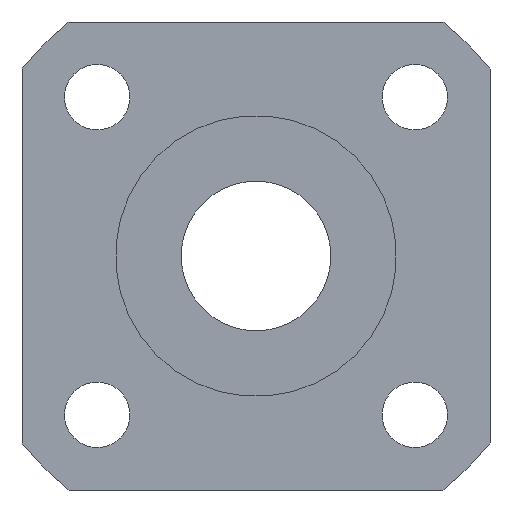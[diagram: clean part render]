
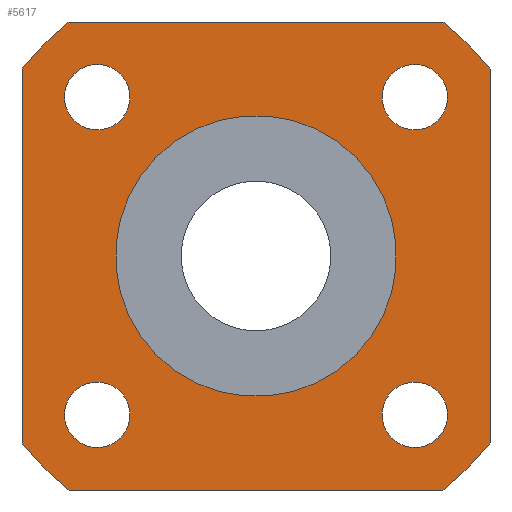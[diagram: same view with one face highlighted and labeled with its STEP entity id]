
A CAD part, left-side view. The second image highlights one B-rep face of the part: STEP entity #5617.
In plain terms, the highlighted planar face has unit normal (-1, 0, 0).
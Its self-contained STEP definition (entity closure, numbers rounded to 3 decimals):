
#112=CIRCLE('',#5960,16.);
#113=CIRCLE('',#5962,16.);
#114=CIRCLE('',#5964,16.);
#124=CIRCLE('',#5979,7.5);
#126=CIRCLE('',#5984,16.);
#127=CIRCLE('',#5986,1.75);
#128=CIRCLE('',#5987,1.75);
#129=CIRCLE('',#5988,1.75);
#130=CIRCLE('',#5989,1.75);
#330=LINE('',#8953,#980);
#331=LINE('',#8954,#981);
#332=LINE('',#8955,#982);
#333=LINE('',#8956,#983);
#980=VECTOR('',#6520,1000.);
#981=VECTOR('',#6521,1000.);
#982=VECTOR('',#6522,1000.);
#983=VECTOR('',#6523,1000.);
#1716=ORIENTED_EDGE('',*,*,#3333,.T.);
#1717=ORIENTED_EDGE('',*,*,#3313,.F.);
#1718=ORIENTED_EDGE('',*,*,#3334,.T.);
#1719=ORIENTED_EDGE('',*,*,#3316,.F.);
#1720=ORIENTED_EDGE('',*,*,#3335,.T.);
#1721=ORIENTED_EDGE('',*,*,#3330,.F.);
#1722=ORIENTED_EDGE('',*,*,#3336,.T.);
#1723=ORIENTED_EDGE('',*,*,#3311,.F.);
#1724=ORIENTED_EDGE('',*,*,#3337,.T.);
#1725=ORIENTED_EDGE('',*,*,#3338,.T.);
#1726=ORIENTED_EDGE('',*,*,#3339,.T.);
#1727=ORIENTED_EDGE('',*,*,#3340,.T.);
#1728=ORIENTED_EDGE('',*,*,#3328,.F.);
#3311=EDGE_CURVE('',#4122,#4123,#112,.T.);
#3313=EDGE_CURVE('',#4124,#4125,#113,.T.);
#3316=EDGE_CURVE('',#4126,#4127,#114,.T.);
#3328=EDGE_CURVE('',#4137,#4137,#124,.F.);
#3330=EDGE_CURVE('',#4139,#4140,#126,.T.);
#3333=EDGE_CURVE('',#4122,#4125,#330,.T.);
#3334=EDGE_CURVE('',#4124,#4127,#331,.T.);
#3335=EDGE_CURVE('',#4126,#4140,#332,.T.);
#3336=EDGE_CURVE('',#4139,#4123,#333,.T.);
#3337=EDGE_CURVE('',#4141,#4141,#127,.T.);
#3338=EDGE_CURVE('',#4142,#4142,#128,.T.);
#3339=EDGE_CURVE('',#4143,#4143,#129,.T.);
#3340=EDGE_CURVE('',#4144,#4144,#130,.T.);
#4122=VERTEX_POINT('',#8901);
#4123=VERTEX_POINT('',#8903);
#4124=VERTEX_POINT('',#8907);
#4125=VERTEX_POINT('',#8908);
#4126=VERTEX_POINT('',#8913);
#4127=VERTEX_POINT('',#8914);
#4137=VERTEX_POINT('',#8941);
#4139=VERTEX_POINT('',#8948);
#4140=VERTEX_POINT('',#8949);
#4141=VERTEX_POINT('',#8958);
#4142=VERTEX_POINT('',#8960);
#4143=VERTEX_POINT('',#8962);
#4144=VERTEX_POINT('',#8964);
#4610=EDGE_LOOP('',(#1716,#1717,#1718,#1719,#1720,#1721,#1722,#1723));
#4611=EDGE_LOOP('',(#1724));
#4612=EDGE_LOOP('',(#1725));
#4613=EDGE_LOOP('',(#1726));
#4614=EDGE_LOOP('',(#1727));
#4615=EDGE_LOOP('',(#1728));
#5014=FACE_BOUND('',#4610,.T.);
#5015=FACE_BOUND('',#4611,.T.);
#5016=FACE_BOUND('',#4612,.T.);
#5017=FACE_BOUND('',#4613,.T.);
#5018=FACE_BOUND('',#4614,.T.);
#5019=FACE_BOUND('',#4615,.T.);
#5363=PLANE('',#5985);
#5617=ADVANCED_FACE('',(#5014,#5015,#5016,#5017,#5018,#5019),#5363,.F.);
#5960=AXIS2_PLACEMENT_3D('',#8902,#6461,#6462);
#5962=AXIS2_PLACEMENT_3D('',#8906,#6466,#6467);
#5964=AXIS2_PLACEMENT_3D('',#8912,#6472,#6473);
#5979=AXIS2_PLACEMENT_3D('',#8940,#6504,#6505);
#5984=AXIS2_PLACEMENT_3D('',#8947,#6514,#6515);
#5985=AXIS2_PLACEMENT_3D('',#8952,#6518,#6519);
#5986=AXIS2_PLACEMENT_3D('',#8957,#6524,#6525);
#5987=AXIS2_PLACEMENT_3D('',#8959,#6526,#6527);
#5988=AXIS2_PLACEMENT_3D('',#8961,#6528,#6529);
#5989=AXIS2_PLACEMENT_3D('',#8963,#6530,#6531);
#6461=DIRECTION('',(1.,0.,0.));
#6462=DIRECTION('',(0.,0.707,-0.707));
#6466=DIRECTION('',(1.,0.,0.));
#6467=DIRECTION('',(0.,0.707,-0.707));
#6472=DIRECTION('',(1.,0.,0.));
#6473=DIRECTION('',(0.,0.707,-0.707));
#6504=DIRECTION('',(1.,0.,0.));
#6505=DIRECTION('',(0.,0.707,-0.707));
#6514=DIRECTION('',(1.,0.,0.));
#6515=DIRECTION('',(0.,0.707,-0.707));
#6518=DIRECTION('',(1.,0.,0.));
#6519=DIRECTION('',(0.,0.707,-0.707));
#6520=DIRECTION('',(0.,0.,1.));
#6521=DIRECTION('',(0.,1.,0.));
#6522=DIRECTION('',(0.,0.,-1.));
#6523=DIRECTION('',(0.,-1.,0.));
#6524=DIRECTION('',(1.,0.,0.));
#6525=DIRECTION('',(0.,0.707,-0.707));
#6526=DIRECTION('',(1.,0.,0.));
#6527=DIRECTION('',(0.,0.707,-0.707));
#6528=DIRECTION('',(1.,0.,0.));
#6529=DIRECTION('',(0.,0.707,-0.707));
#6530=DIRECTION('',(1.,0.,0.));
#6531=DIRECTION('',(0.,0.707,-0.707));
#8901=CARTESIAN_POINT('',(3.5,-12.5,-9.987));
#8902=CARTESIAN_POINT('',(3.5,0.,0.));
#8903=CARTESIAN_POINT('',(3.5,-9.987,-12.5));
#8906=CARTESIAN_POINT('',(3.5,0.,0.));
#8907=CARTESIAN_POINT('',(3.5,-9.987,12.5));
#8908=CARTESIAN_POINT('',(3.5,-12.5,9.987));
#8912=CARTESIAN_POINT('',(3.5,0.,0.));
#8913=CARTESIAN_POINT('',(3.5,12.5,9.987));
#8914=CARTESIAN_POINT('',(3.5,9.987,12.5));
#8940=CARTESIAN_POINT('',(3.5,0.,0.));
#8941=CARTESIAN_POINT('',(3.5,5.303,-5.303));
#8947=CARTESIAN_POINT('',(3.5,0.,0.));
#8948=CARTESIAN_POINT('',(3.5,9.987,-12.5));
#8949=CARTESIAN_POINT('',(3.5,12.5,-9.987));
#8952=CARTESIAN_POINT('',(3.5,0.,0.));
#8953=CARTESIAN_POINT('',(3.5,-12.5,12.5));
#8954=CARTESIAN_POINT('',(3.5,12.5,12.5));
#8955=CARTESIAN_POINT('',(3.5,12.5,-12.5));
#8956=CARTESIAN_POINT('',(3.5,-12.5,-12.5));
#8957=CARTESIAN_POINT('',(3.5,8.485,-8.485));
#8958=CARTESIAN_POINT('',(3.5,9.723,-9.723));
#8959=CARTESIAN_POINT('',(3.5,-8.485,-8.485));
#8960=CARTESIAN_POINT('',(3.5,-7.248,-9.723));
#8961=CARTESIAN_POINT('',(3.5,-8.485,8.485));
#8962=CARTESIAN_POINT('',(3.5,-7.248,7.248));
#8963=CARTESIAN_POINT('',(3.5,8.485,8.485));
#8964=CARTESIAN_POINT('',(3.5,9.723,7.248));
